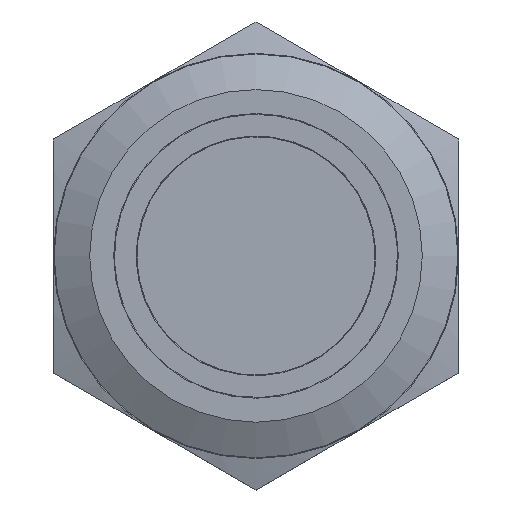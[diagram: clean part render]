
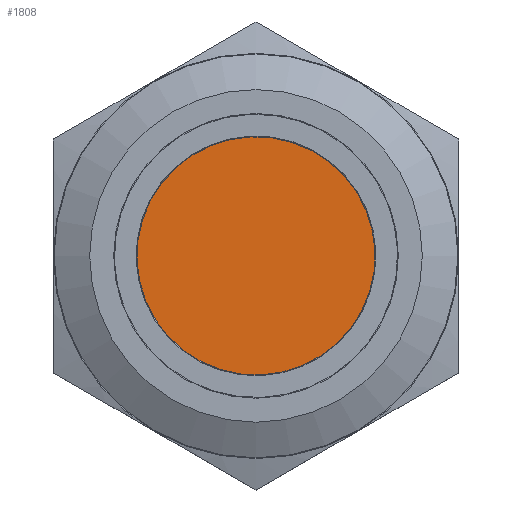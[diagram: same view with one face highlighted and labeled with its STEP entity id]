
A CAD part, top view. The second image highlights one B-rep face of the part: STEP entity #1808.
In plain terms, the highlighted planar face has unit normal (0, 0, 1) as drawn and (0, 0, -1) by its records, which use the part's own axes.
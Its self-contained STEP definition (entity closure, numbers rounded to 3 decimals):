
#1563=PLANE('',#4368);
#1808=ADVANCED_FACE('',(#2035),#1563,.F.);
#2035=FACE_OUTER_BOUND('',#2221,.T.);
#2221=EDGE_LOOP('',(#2608));
#2461=CIRCLE('',#4366,8.2);
#2608=ORIENTED_EDGE('',*,*,#3797,.T.);
#3479=VERTEX_POINT('',#7397);
#3797=EDGE_CURVE('',#3479,#3479,#2461,.T.);
#4366=AXIS2_PLACEMENT_3D('',#7396,#4708,#4709);
#4368=AXIS2_PLACEMENT_3D('',#7399,#4712,#4713);
#4708=DIRECTION('',(0.,0.,-1.));
#4709=DIRECTION('',(1.,0.,0.));
#4712=DIRECTION('',(0.,0.,1.));
#4713=DIRECTION('',(1.,0.,0.));
#7396=CARTESIAN_POINT('',(0.,0.,-1.85));
#7397=CARTESIAN_POINT('',(8.2,0.,-1.85));
#7399=CARTESIAN_POINT('',(0.,0.,-1.85));
